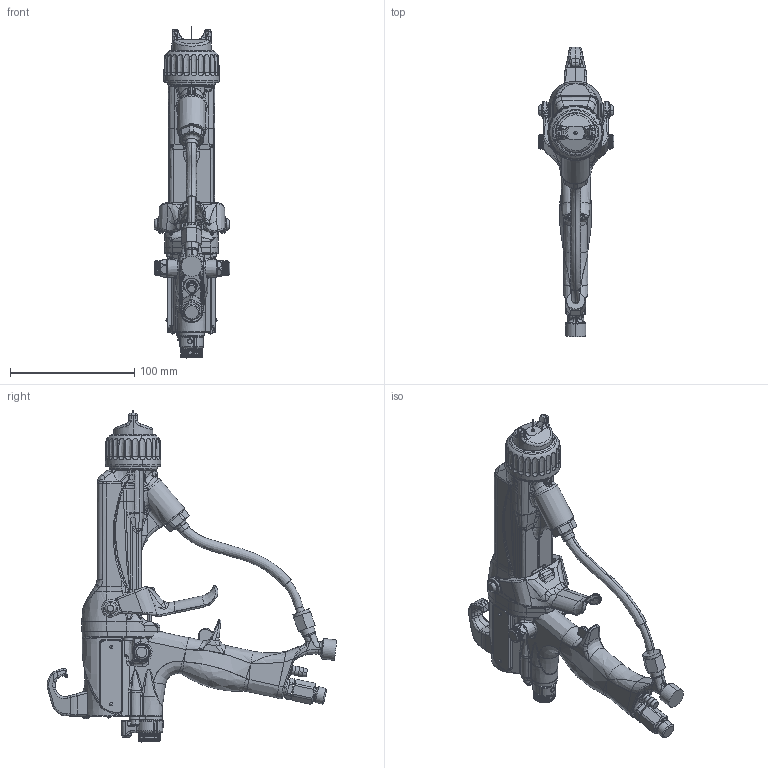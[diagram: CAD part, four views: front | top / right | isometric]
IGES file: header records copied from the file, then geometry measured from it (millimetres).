
Start section:  PTC IGES file: l85t71-en-c.igs
Global section: file name: l85t71-en-c.igs; native system: Creo Parametric by PTC Inc.; preprocessor: 2019030; author: qusrh3; organization: Unknown; date: 20200518.163716; units: inch
Bounding box: 61.15 x 233.22 x 267.21 mm (x, y, z)
Surface area: 93279.3 mm2 (no closed solid volume)
Topology: 0 solids, 0 shells, 2655 faces, 13344 edges, 13335 vertices
Faces by surface type: bspline 1427, revolution 1220, extrusion 8
